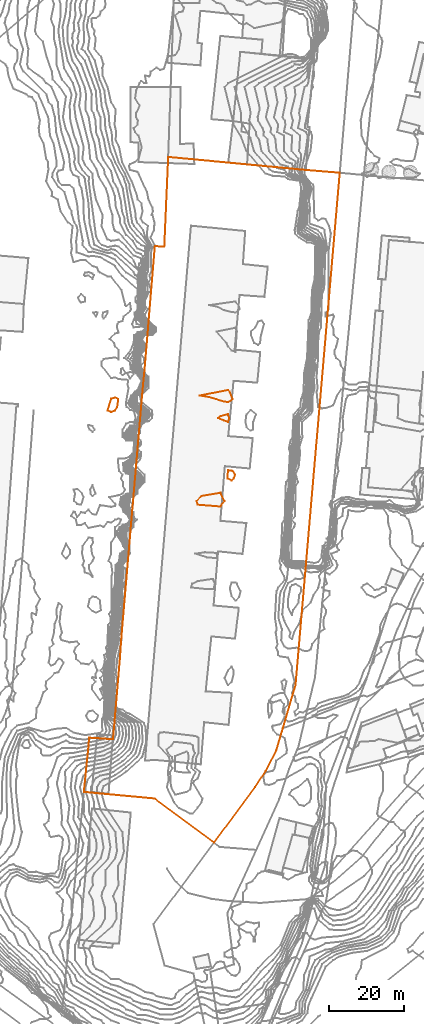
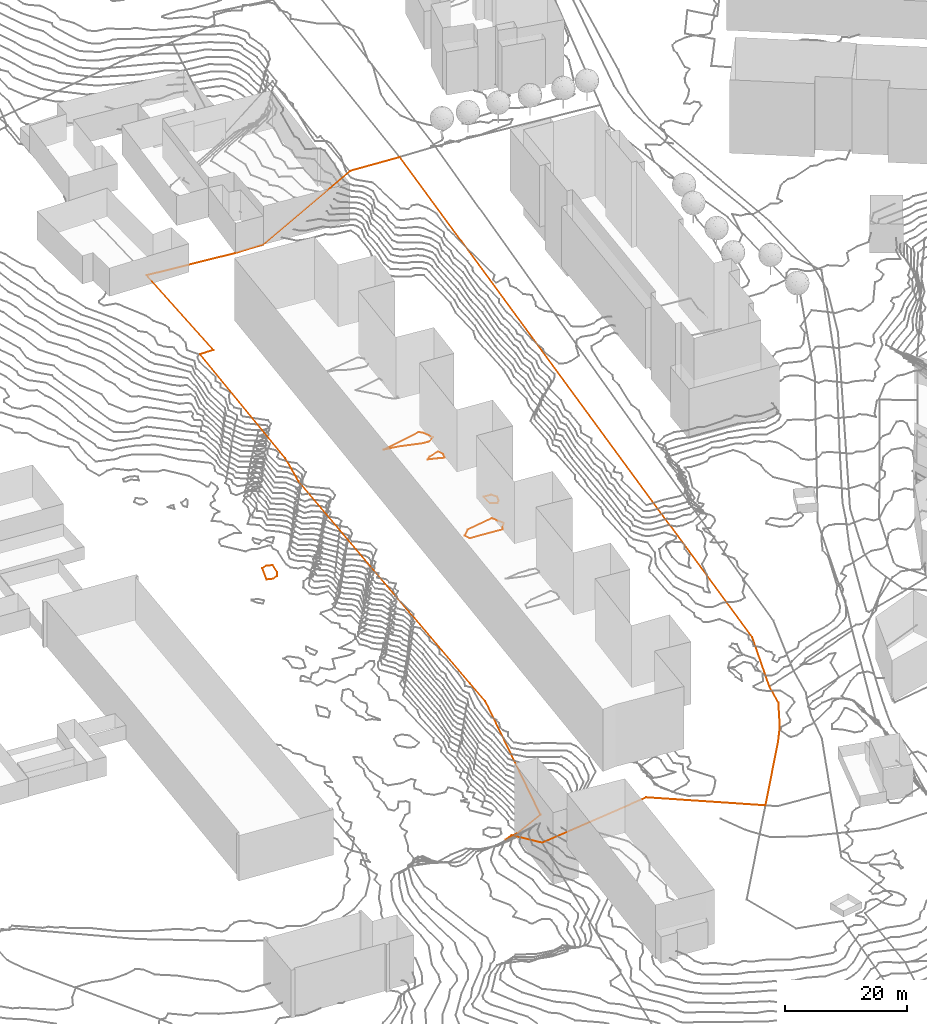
# Not in any storey, part 257 of 419: 6 proxies.
"""IFC2X3 model written with IfcOpenShell, lengths in metres."""

from ifc_helpers import new_model, entity, si_unit, frame, origin_with_axes, place, context, subcontext, project, element, save


model = new_model("IFC2X3")

# Units and contexts
model_context = context("Model", 3, precision=1e-05, world=origin_with_axes())
body_context = subcontext(model_context, "Body", "Model", "MODEL_VIEW")
ifc_project = project(units=[si_unit("AREAUNIT", "SQUARE_METRE"), si_unit("LENGTHUNIT", "METRE")], contexts=[model_context])

# Proxies
proxy_1_placement = place(None, frame((789.8320204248, 629.5976909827, 82.8664801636), z_axis=(0.0, 0.0, 1.0), x_axis=(1.0, 0.0, 0.0)))
element("IfcBuildingElementProxy", 1, at=proxy_1_placement, Name="Cadastre 96", ObjectType="NOTDEFINED", context=body_context, shape_type="GeometricCurveSet", body=[
    entity("IfcGeometricCurveSet", [entity("IfcPolyline", [entity("IfcCartesianPoint", [67.98, 164.4699999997, 13.85961548]), entity("IfcCartesianPoint", [56.23, 28.4399999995, 4.2531112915]), entity("IfcCartesianPoint", [52.8200000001, 16.8899999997, 2.5810756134]), entity("IfcCartesianPoint", [51.1, 10.9799999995, 3.5310602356]), entity("IfcCartesianPoint", [48.27, 5.5899999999, 3.0872881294]), entity("IfcCartesianPoint", [45.4500000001, 1.2599999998, 3.6580009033]), entity("IfcCartesianPoint", [34.53, -13.4800000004, 3.5668315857]), entity("IfcCartesianPoint", [18.72, -1.75, 3.5989800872]), entity("IfcCartesianPoint", [0.0, 0.0, 0.0]), entity("IfcCartesianPoint", [1.2100000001, 12.0899999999, -6.269684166]), entity("IfcCartesianPoint", [1.42, 14.4100000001, -8.5673832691]), entity("IfcCartesianPoint", [3.5800000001, 14.2599999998, -7.9367038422]), entity("IfcCartesianPoint", [7.74, 13.9900000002, -5.5403592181]), entity("IfcCartesianPoint", [9.5600000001, 35.2599999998, 3.692278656]), entity("IfcCartesianPoint", [9.9500000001, 40.8600000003, 3.6136907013]), entity("IfcCartesianPoint", [15.61, 107.04, 2.043398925]), entity("IfcCartesianPoint", [16.13, 112.29, 3.3696427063]), entity("IfcCartesianPoint", [18.85, 144.9799999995, 3.3908220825]), entity("IfcCartesianPoint", [21.37, 144.8600000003, 3.418419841]), entity("IfcCartesianPoint", [22.4, 168.6799999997, 3.5791862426]), entity("IfcCartesianPoint", [38.3300000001, 167.1699999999, 3.3409820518]), entity("IfcCartesianPoint", [43.3200000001, 166.6899999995, 3.6162355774]), entity("IfcCartesianPoint", [58.9400000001, 165.2199999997, 13.7728270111]), entity("IfcCartesianPoint", [67.98, 164.4699999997, 13.85961548])])]),
])
proxy_2_placement = place(None, frame((820.5919954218, 734.8976909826, 87.0), z_axis=(0.0, 0.0, 1.0), x_axis=(1.0, 0.0, 0.0)))
element("IfcBuildingElementProxy", 2, at=proxy_2_placement, Name="Contour 87.0 m", ObjectType="NOTDEFINED", context=body_context, shape_type="GeometricCurveSet", body=[
    entity("IfcGeometricCurveSet", [entity("IfcPolyline", [entity("IfcCartesianPoint", [8.8000173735, -1.0, 0.0]), entity("IfcCartesianPoint", [7.500025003, -1.7179467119, 0.0]), entity("IfcCartesianPoint", [6.500025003, -1.6249910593, 0.0]), entity("IfcCartesianPoint", [2.500025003, -0.4166640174, 0.0]), entity("IfcCartesianPoint", [0.0, 0.0, 0.0]), entity("IfcCartesianPoint", [7.500025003, 1.4666598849, 0.0]), entity("IfcCartesianPoint", [7.966684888, 1.0, 0.0]), entity("IfcCartesianPoint", [8.8000173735, -1.0, 0.0])])]),
])
proxy_3_placement = place(None, frame((796.0920037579, 730.8976909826, 72.0), z_axis=(0.0, 0.0, 1.0), x_axis=(1.0, 0.0, 0.0)))
element("IfcBuildingElementProxy", 3, at=proxy_3_placement, Name="Contour 72.0 m", ObjectType="NOTDEFINED", context=body_context, shape_type="GeometricCurveSet", body=[
    entity("IfcGeometricCurveSet", [entity("IfcPolyline", [entity("IfcCartesianPoint", [2.0000243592, 0.0, 0.0]), entity("IfcCartesianPoint", [1.0000166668, -0.3332909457, 0.0]), entity("IfcCartesianPoint", [0.0, 0.0, 0.0]), entity("IfcCartesianPoint", [1.0000166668, 3.1428882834, 0.0]), entity("IfcCartesianPoint", [2.0000166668, 3.4706040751, 0.0]), entity("IfcCartesianPoint", [2.8888867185, 3.0, 0.0]), entity("IfcCartesianPoint", [2.5833341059, 1.0, 0.0]), entity("IfcCartesianPoint", [2.0000243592, 0.0, 0.0])])]),
])
proxy_4_placement = place(None, frame((825.4254385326, 728.8976909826, 87.0), z_axis=(0.0, 0.0, 1.0), x_axis=(1.0, 0.0, 0.0)))
element("IfcBuildingElementProxy", 4, at=proxy_4_placement, Name="Contour 87.0 m", ObjectType="NOTDEFINED", context=body_context, shape_type="GeometricCurveSet", body=[
    entity("IfcGeometricCurveSet", [entity("IfcPolyline", [entity("IfcCartesianPoint", [2.6665885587, -1.0, 0.0]), entity("IfcCartesianPoint", [1.6665818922, -0.6250238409, 0.0]), entity("IfcCartesianPoint", [0.0, 0.0, 0.0]), entity("IfcCartesianPoint", [0.6665818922, 0.5000250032, 0.0]), entity("IfcCartesianPoint", [2.6665818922, 1.1000228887, 0.0]), entity("IfcCartesianPoint", [2.9999152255, 0.0, 0.0]), entity("IfcCartesianPoint", [2.6665885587, -1.0, 0.0])])]),
])
proxy_5_placement = place(None, frame((828.033186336, 712.8976909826, 87.0), z_axis=(0.0, 0.0, 1.0), x_axis=(1.0, 0.0, 0.0)))
element("IfcBuildingElementProxy", 5, at=proxy_5_placement, Name="Contour 87.0 m", ObjectType="NOTDEFINED", context=body_context, shape_type="GeometricCurveSet", body=[
    entity("IfcGeometricCurveSet", [entity("IfcPolyline", [entity("IfcCartesianPoint", [1.6188316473, 0.0, 0.0]), entity("IfcCartesianPoint", [1.0588340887, -0.5833359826, 0.0]), entity("IfcCartesianPoint", [0.0, 0.0, 0.0]), entity("IfcCartesianPoint", [0.0588340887, 2.1481491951, 0.0]), entity("IfcCartesianPoint", [1.3529596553, 2.0, 0.0]), entity("IfcCartesianPoint", [1.9477418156, 1.0, 0.0]), entity("IfcCartesianPoint", [1.6188316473, 0.0, 0.0])])]),
])
proxy_6_placement = place(None, frame((819.758602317, 706.8976909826, 87.0), z_axis=(0.0, 0.0, 1.0), x_axis=(1.0, 0.0, 0.0)))
element("IfcBuildingElementProxy", 6, at=proxy_6_placement, Name="Contour 87.0 m", ObjectType="NOTDEFINED", context=body_context, shape_type="GeometricCurveSet", body=[
    entity("IfcGeometricCurveSet", [entity("IfcPolyline", [entity("IfcCartesianPoint", [6.6191220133, -1.0, 0.0]), entity("IfcCartesianPoint", [6.3334181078, -1.5000083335, 0.0]), entity("IfcCartesianPoint", [0.3333181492, -1.0, 0.0]), entity("IfcCartesianPoint", [0.0, 0.0, 0.0]), entity("IfcCartesianPoint", [1.3334181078, 1.3332909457, 0.0]), entity("IfcCartesianPoint", [6.3334181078, 2.1666878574, 0.0]), entity("IfcCartesianPoint", [7.4103298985, 0.0, 0.0]), entity("IfcCartesianPoint", [6.6191220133, -1.0, 0.0])])]),
])

save(model, "model.ifc")
